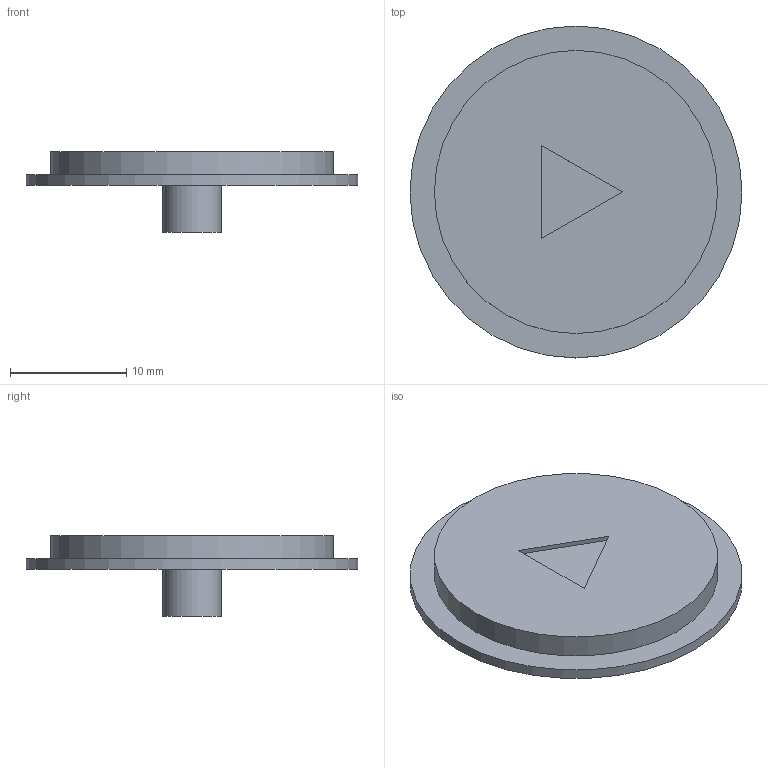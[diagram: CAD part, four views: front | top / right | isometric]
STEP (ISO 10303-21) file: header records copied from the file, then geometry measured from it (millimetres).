
FILE_DESCRIPTION(('Open CASCADE Model'),'2;1');
FILE_NAME('Open CASCADE Shape Model','2026-09-02T15:45:53',('Author'),( 'Open CASCADE'),'Open CASCADE STEP processor 7.7','Open CASCADE 7.7' ,'Unknown');
FILE_SCHEMA(('AUTOMOTIVE_DESIGN { 1 0 10303 214 1 1 1 1 }'));
Length unit declared in the file: millimetre
Products named in the file (1): Open CASCADE STEP translator 7.7 5
Bounding box: 28.6 x 28.6 x 6.95 mm (x, y, z)
Volume: 1581.7 mm3; surface area: 1592.3 mm2
Topology: 1 solids, 1 shells, 11 faces, 18 edges, 12 vertices
Faces by surface type: plane 8, cylinder 3
Full cylindrical faces by diameter (mm): 5 x1, 24.4 x1, 28.6 x1
Entity records: 502 total; most frequent: CARTESIAN_POINT 96, DIRECTION 76, ORIENTED_EDGE 36, PCURVE 36, DEFINITIONAL_REPRESENTATION 36, LINE 36, VECTOR 36, AXIS2_PLACEMENT_3D 18
